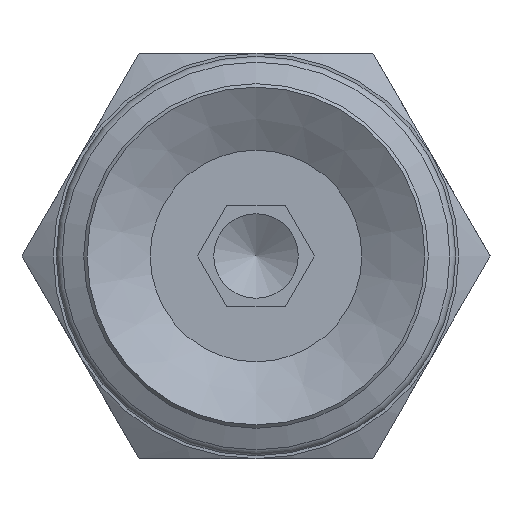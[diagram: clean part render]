
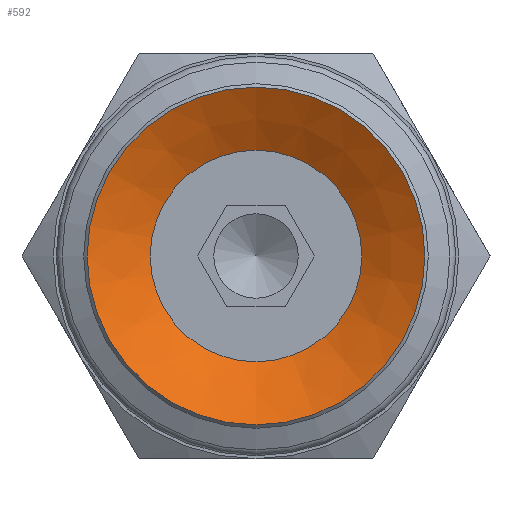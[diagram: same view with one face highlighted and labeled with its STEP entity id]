
A CAD part, front view. The second image highlights one B-rep face of the part: STEP entity #592.
In plain terms, the highlighted conical face has half-angle 60 degrees and reference radius 3.133 mm.
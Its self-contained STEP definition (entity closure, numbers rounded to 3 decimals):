
#592=ADVANCED_FACE('',(#820,#821),#822,.F.);
#820=FACE_BOUND('',#1117,.T.);
#821=FACE_OUTER_BOUND('',#1118,.T.);
#822=CONICAL_SURFACE('',#1119,3.133,1.047);
#1117=EDGE_LOOP('',(#1745));
#1118=EDGE_LOOP('',(#1746));
#1119=AXIS2_PLACEMENT_3D('',#1747,#1748,#1749);
#1745=ORIENTED_EDGE('',*,*,#2099,.F.);
#1746=ORIENTED_EDGE('',*,*,#2100,.T.);
#1747=CARTESIAN_POINT('',(0.0,7.659,0.));
#1748=DIRECTION('',(-0.0,-1.0,0.));
#1749=DIRECTION('',(0.0,0.,-1.0));
#2099=EDGE_CURVE('',#2384,#2384,#2385,.T.);
#2100=EDGE_CURVE('',#2386,#2386,#2387,.T.);
#2384=VERTEX_POINT('',#3242);
#2385=CIRCLE('',#3243,3.133);
#2386=VERTEX_POINT('',#3244);
#2387=CIRCLE('',#3245,5.0);
#3242=CARTESIAN_POINT('',(0.0,7.659,-3.133));
#3243=AXIS2_PLACEMENT_3D('',#3555,#3556,#3557);
#3244=CARTESIAN_POINT('',(0.0,6.581,-5.0));
#3245=AXIS2_PLACEMENT_3D('',#3558,#3559,#3560);
#3555=CARTESIAN_POINT('',(0.0,7.659,0.));
#3556=DIRECTION('',(0.0,-1.0,0.));
#3557=DIRECTION('',(0.0,0.,-1.0));
#3558=CARTESIAN_POINT('',(0.0,6.581,0.0));
#3559=DIRECTION('',(0.0,-1.0,0.));
#3560=DIRECTION('',(0.0,0.,-1.0));
